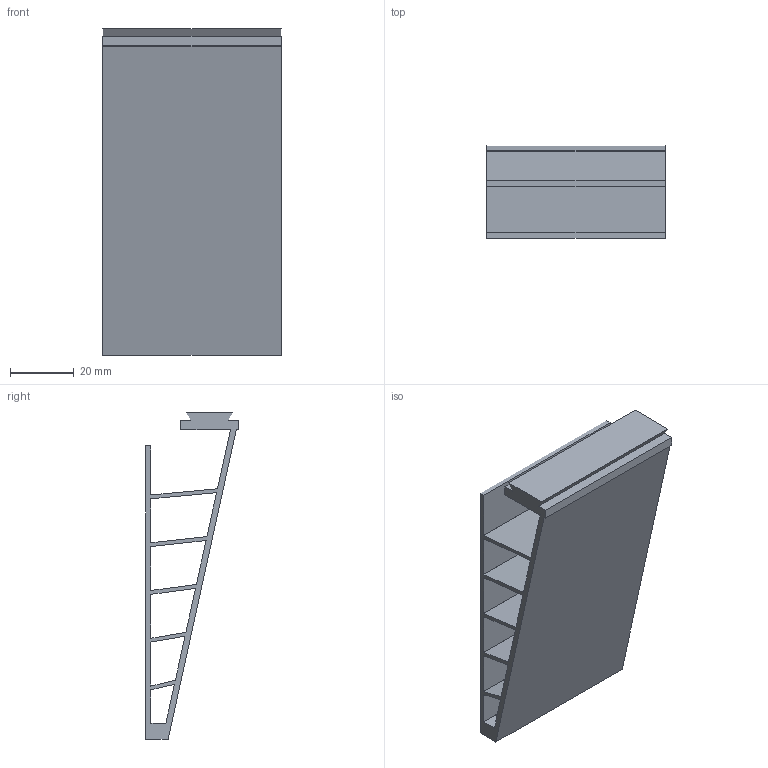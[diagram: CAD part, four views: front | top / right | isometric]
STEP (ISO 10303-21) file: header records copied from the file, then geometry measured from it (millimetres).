
FILE_DESCRIPTION(('Open CASCADE Model'),'2;1');
FILE_NAME('Open CASCADE Shape Model','2026-10-15T19:33:12',('Author'),( 'Open CASCADE'),'Open CASCADE STEP processor 7.9','Open CASCADE 7.9' ,'Unknown');
FILE_SCHEMA(('AUTOMOTIVE_DESIGN { 1 0 10303 214 1 1 1 1 }'));
Length unit declared in the file: millimetre
Products named in the file (1): Open CASCADE STEP translator 7.9 20
Bounding box: 56 x 29 x 102.4 mm (x, y, z)
Volume: 28720.3 mm3; surface area: 32664 mm2
Topology: 1 solids, 1 shells, 484 faces, 1446 edges, 964 vertices
Faces by surface type: plane 484
Entity records: 34758 total; most frequent: CARTESIAN_POINT 5787, DIRECTION 5308, LINE 4338, VECTOR 4338, ORIENTED_EDGE 2892, PCURVE 2892, DEFINITIONAL_REPRESENTATION 2892, EDGE_CURVE 1446
